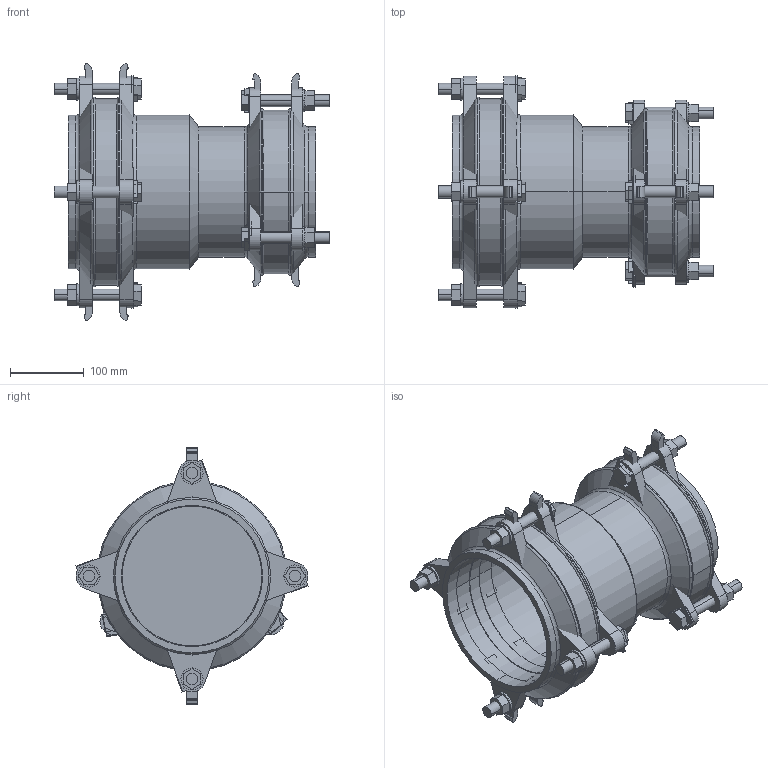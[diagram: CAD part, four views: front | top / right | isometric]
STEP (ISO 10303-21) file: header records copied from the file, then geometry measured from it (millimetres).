
FILE_DESCRIPTION(('STEP AP214'),'1');
FILE_NAME('MJ004947 DN 150-125.STP','2015-02-06T12:09:06',(' '),(' '),'Spatial InterOp 3D',' ',' ');
FILE_SCHEMA(('automotive_design'));
Length unit declared in the file: millimetre
Products named in the file (75): 3D-Objekt
Bounding box: 375 x 315.52 x 350 mm (x, y, z)
Volume: 4321635.1 mm3; surface area: 1101734.6 mm2
Topology: 75 solids, 75 shells, 585 faces, 1301 edges, 866 vertices
Faces by surface type: plane 400, cylinder 143, torus 24, cone 18
Entity records: 22660 total; most frequent: DIRECTION 3011, CARTESIAN_POINT 2827, ORIENTED_EDGE 2602, EDGE_CURVE 1301, AXIS2_PLACEMENT_3D 1050, LINE 911, VECTOR 911, VERTEX_POINT 866
